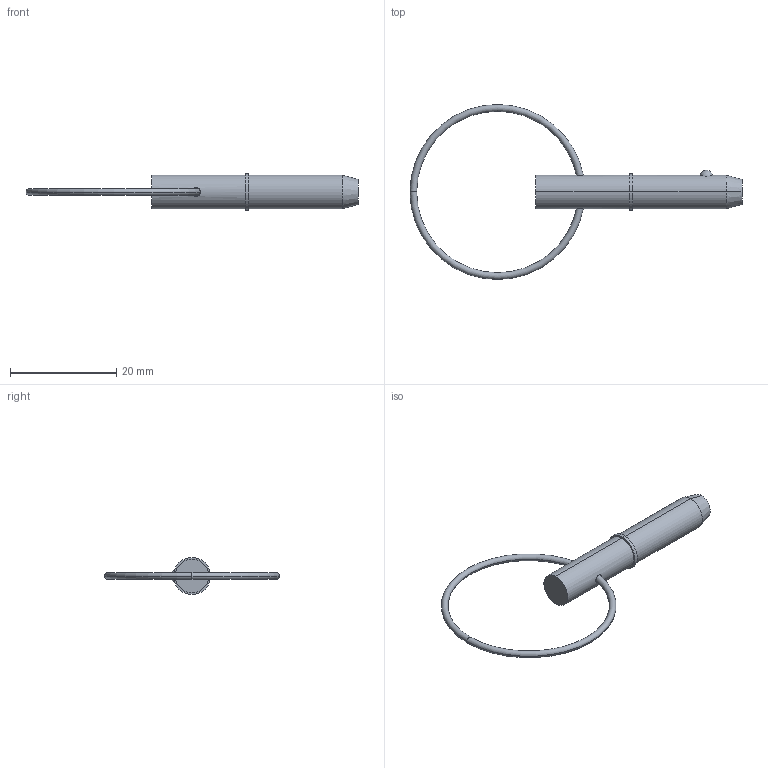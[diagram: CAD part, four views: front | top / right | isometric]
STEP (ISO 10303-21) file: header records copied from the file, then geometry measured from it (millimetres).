
FILE_DESCRIPTION (( 'STEP AP203' ), '1' );
FILE_NAME ('33016.W2505.step', '2024-11-07T11:01:57', ( '' ), ( '' ), 'SwSTEP 2.0', 'SolidWorks 2019', '' );
FILE_SCHEMA (( 'CONFIG_CONTROL_DESIGN' ));
Length unit declared in the file: millimetre
Products named in the file (3): Part1_33016.W2505; 33016.W2505; Part2_33016.W2505
Assembly tree (2 placements, depth 2):
  33016.W2505
    Part1_33016.W2505
    Part2_33016.W2505
Bounding box: 62.64 x 33.02 x 6.99 mm (x, y, z)
Volume: 1331.4 mm3; surface area: 1263.2 mm2
Topology: 2 solids, 2 shells, 22 faces, 43 edges, 26 vertices
Faces by surface type: torus 8, cylinder 6, plane 4, sphere 2, cone 2
Entity records: 971 total; most frequent: CARTESIAN_POINT 194, DIRECTION 120, ORIENTED_EDGE 86, AXIS2_PLACEMENT_3D 56, EDGE_CURVE 43, CIRCLE 29, EDGE_LOOP 27, VERTEX_POINT 26
